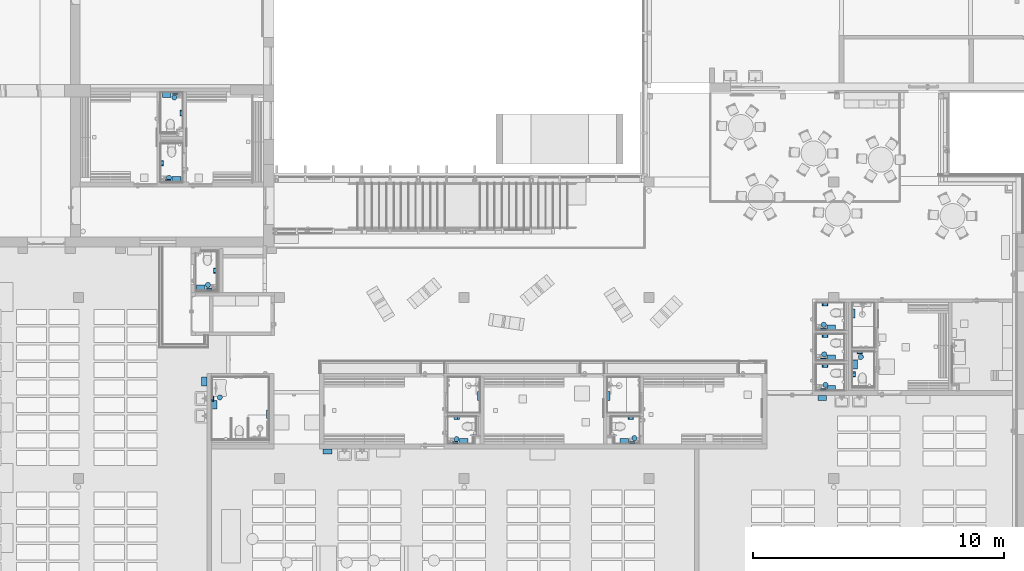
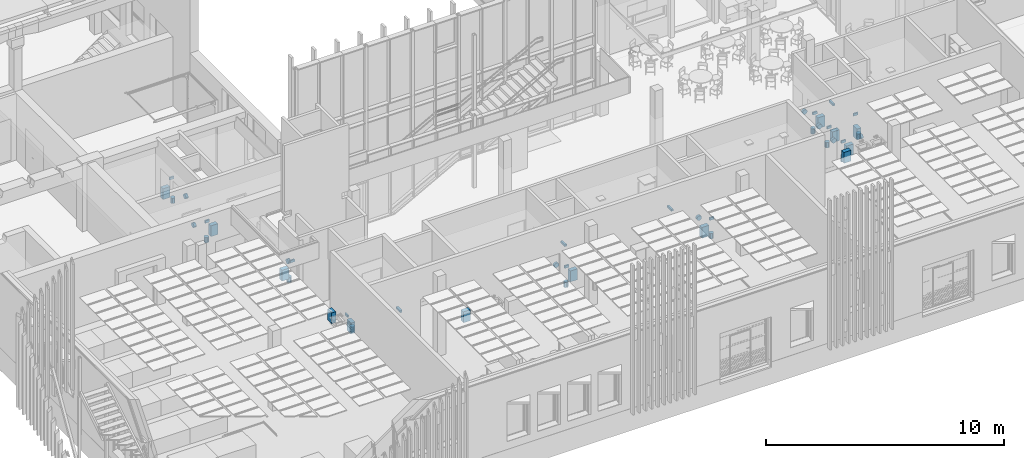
# One storey, part 7 of 301: 46 discrete accessories.
"""IFC2X3 building model written with IfcOpenShell, lengths in millimetres."""

from ifc_helpers import new_model, entity, si_unit, converted_unit, derived_unit, money_unit, direction, frame, origin_with_axes, place, context, subcontext, project, spatial, faceted_brep, source, transform, mapped, type_object, element, save


model = new_model("IFC2X3")

# Units and contexts
model_context = context("Model", 3, precision=0.01, world=origin_with_axes(), true_north=direction((0.0, 1.0)))
body_context = subcontext(model_context, "Body", "Model", "MODEL_VIEW")
ifc_project = project(units=[si_unit("LENGTHUNIT", "METRE", prefix="MILLI"), si_unit("AREAUNIT", "SQUARE_METRE"), si_unit("VOLUMEUNIT", "CUBIC_METRE"), converted_unit("PLANEANGLEUNIT", "DEGREE", entity("IfcPlaneAngleMeasure", 0.0174532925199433), si_unit("PLANEANGLEUNIT", "RADIAN"), dimensions=[0, 0, 0, 0, 0, 0, 0]), money_unit("EUR"), converted_unit("TIMEUNIT", "Year", entity("IfcTimeMeasure", 31557600.0), si_unit("TIMEUNIT", "SECOND"), dimensions=[0, 0, 1, 0, 0, 0, 0]), si_unit("MASSUNIT", "GRAM", prefix="KILO"), si_unit("THERMODYNAMICTEMPERATUREUNIT", "DEGREE_CELSIUS"), si_unit("LUMINOUSINTENSITYUNIT", "LUMEN"), si_unit("ENERGYUNIT", "JOULE", prefix="MEGA"), derived_unit("THERMALCONDUCTANCEUNIT", [(si_unit("POWERUNIT", "WATT"), 1), (si_unit("LENGTHUNIT", "METRE"), -1), (si_unit("THERMODYNAMICTEMPERATUREUNIT", "KELVIN"), -1)]), derived_unit("SPECIFICHEATCAPACITYUNIT", [(si_unit("ENERGYUNIT", "JOULE"), 1), (si_unit("MASSUNIT", "GRAM", prefix="KILO"), -1), (si_unit("THERMODYNAMICTEMPERATUREUNIT", "KELVIN"), -1)]), derived_unit("MASSDENSITYUNIT", [(si_unit("MASSUNIT", "GRAM", prefix="KILO"), 1), (si_unit("VOLUMEUNIT", "CUBIC_METRE"), -1)])], contexts=[model_context])

# Site, building, storey
site_placement = place(None, frame((0.0, 0.0, 8650.0), z_axis=(0.0, 0.0, 1.0), x_axis=(1.0, 0.0, 0.0)))
site = spatial("IfcSite", under=ifc_project, at=site_placement, Name="43301:001:0844", CompositionType="ELEMENT")
building_placement = place(site_placement, origin_with_axes())
building = spatial("IfcBuilding", under=site, at=building_placement, Name="Kuressaare Ametikooli tuulikute mehaanikute õppekorpus", CompositionType="ELEMENT")
storey_placement = place(building_placement, origin_with_axes())
storey = spatial("IfcBuildingStorey", under=building, at=storey_placement, Name="1.korrus", CompositionType="ELEMENT", Elevation=0.0)

# Discrete accessories
discrete_accessory_type_1 = type_object("IfcDiscreteAccessoryType", Name="Cube 27")
shared_shape_1 = source(origin_with_axes(), body_context, "Body", "Brep", [
    faceted_brep([(-344.0, 0.0, 0.0), (-344.0, 202.0, 0.0), (0.0, 202.0, 0.0), (0.0, 0.0, 0.0), (-344.0, 0.0, 557.0), (-344.0, 202.0, 557.0), (0.0, 202.0, 557.0), (0.0, 0.0, 557.0)], [[[0, 1, 2, 3]], [[0, 4, 5, 1]], [[1, 5, 6, 2]], [[2, 6, 7, 3]], [[3, 7, 4, 0]], [[7, 6, 5, 4]]]),
])
for number, where, z_axis, x_axis, name in (
    (1, (125293.2609256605, 19884.46984143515, 340.0), (0.0, 0.0, 1.0), (-1.0, 0.0, 0.0), "EK"),
    (2, (100977.9522847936, 20611.79371949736, 340.0), (0.0, 0.0, 1.0), (0.0, 1.0, 0.0), "EK"),
    (3, (125651.1191303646, 20286.4714138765, 293.0000000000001), (0.0, 0.0, 1.0), (-1.0, 0.0, 0.0), "EK"),
    (4, (125651.1188680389, 21486.47141798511, 293.0000000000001), (0.0, 0.0, 1.0), (-1.0, 0.0, 0.0), "EK"),
    (5, (126857.2610453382, 21291.48390393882, 293.0000000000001), (0.0, 0.0, 1.0), (0.0, 1.0, 0.0), "EK"),
    (6, (125641.1188592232, 22686.47054912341, 293.0000000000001), (0.0, 0.0, 1.0), (-1.0, 0.0, 0.0), "EK"),
    (7, (105608.5123890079, 17764.79956493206, 340.0), (0.0, 0.0, 1.0), (-1.0, 0.0, 0.0), "EK"),
    (8, (101379.9524615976, 19689.79367704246, 232.9999999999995), (0.0, 0.0, 1.0), (0.0, 1.0, 0.0), "EK"),
):
    element("IfcDiscreteAccessory", number, at=place(storey_placement, frame(where, z_axis=z_axis, x_axis=x_axis)), inside=storey, type_object=discrete_accessory_type_1, Name=name, context=body_context, shape_type="MappedRepresentation", body=[
        mapped(shared_shape_1, transform((0.0, 0.0, 0.0))),
    ])
shared_shape_2 = source(origin_with_axes(), body_context, "Body", "Brep", [
    faceted_brep([(344.0, 0.0, 0.0), (0.0, 0.0, 0.0), (0.0, 202.0, 0.0), (344.0, 202.0, 0.0), (344.0, 0.0, 557.0), (0.0, 0.0, 557.0), (0.0, 202.0, 557.0), (344.0, 202.0, 557.0)], [[[0, 1, 2, 3]], [[1, 0, 4, 5]], [[2, 1, 5, 6]], [[3, 2, 6, 7]], [[0, 3, 7, 4]], [[5, 4, 7, 6]]]),
])
for number, where, z_axis, x_axis, name in (
    (9, (117759.4020381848, 18166.83741798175, 293.0000000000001), (0.0, 0.0, 1.0), (-0.9999999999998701, 5.098028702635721e-07, 0.0), "EK"),
    (10, (99947.06167510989, 28586.06892394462, 293.0000000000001), (0.0, 0.0, 1.0), (-0.9999999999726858, 7.391101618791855e-06, 0.0), "EK"),
    (11, (99560.69239023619, 31944.00705247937, 293.0000000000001), (0.0, 0.0, 1.0), (-0.9999999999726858, 7.391101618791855e-06, 0.0), "EK"),
    (12, (100903.8193668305, 24278.06546768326, 293.0000000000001), (0.0, 0.0, 1.0), (-0.9999999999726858, 7.391101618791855e-06, 0.0), "EK"),
    (13, (111371.5452944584, 18166.8365170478, 293.0000000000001), (0.0, 0.0, 1.0), (-0.9999999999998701, 5.098028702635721e-07, 0.0), "EK"),
):
    element("IfcDiscreteAccessory", number, at=place(storey_placement, frame(where, z_axis=z_axis, x_axis=x_axis)), inside=storey, type_object=discrete_accessory_type_1, Name=name, context=body_context, shape_type="MappedRepresentation", body=[
        mapped(shared_shape_2, transform((0.0, 0.0, 0.0))),
    ])
discrete_accessory_type_2 = type_object("IfcDiscreteAccessoryType", Name="Cylinder 27")
shared_shape_3 = source(origin_with_axes(), body_context, "Body", "Brep", [
    faceted_brep([(0.0, -19.96954043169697, -113.2528915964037), (-120.0, -19.96954043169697, -113.2528915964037), (-120.0, 0.0, -115.0), (0.0, 0.0, -115.0), (0.0, -39.33231648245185, -108.0646513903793), (-120.0, -39.33231648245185, -108.0646513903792), (-120.0, -57.49999999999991, -99.59292143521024), (-120.0, -73.92057511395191, -88.09511095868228), (-120.0, -88.09511095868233, -73.92057511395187), (-120.0, -99.59292143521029, -57.49999999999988), (-120.0, -108.0646513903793, -39.33231648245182), (-120.0, -113.2528915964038, -19.96954043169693), (-120.0, -114.9999999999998, 0.0), (-120.0, -113.2528915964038, 19.96954043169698), (-120.0, -108.0646513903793, 39.33231648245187), (-120.0, -99.59292143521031, 57.49999999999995), (-120.0, -88.09511095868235, 73.92057511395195), (-120.0, -73.92057511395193, 88.0951109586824), (-120.0, -57.49999999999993, 99.59292143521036), (-120.0, -39.33231648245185, 108.0646513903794), (-120.0, -19.96954043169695, 113.2528915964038), (-120.0, 0.0, 114.9999999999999), (-120.0, 19.969540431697, 113.2528915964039), (-120.0, 39.33231648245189, 108.0646513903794), (-120.0, 57.49999999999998, 99.59292143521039), (-120.0, 73.92057511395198, 88.09511095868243), (-120.0, 88.09511095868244, 73.92057511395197), (-120.0, 99.5929214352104, 57.49999999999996), (-120.0, 108.0646513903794, 39.33231648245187), (-120.0, 113.2528915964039, 19.96954043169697), (-120.0, 114.9999999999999, 0.0), (-120.0, 113.2528915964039, -19.96954043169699), (-120.0, 108.0646513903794, -39.3323164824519), (-120.0, 99.59292143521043, -57.49999999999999), (-120.0, 88.09511095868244, -73.920575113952), (-120.0, 73.920575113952, -88.09511095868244), (-120.0, 57.49999999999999, -99.59292143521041), (-120.0, 39.33231648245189, -108.0646513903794), (-120.0, 19.96954043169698, -113.2528915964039), (0.0, 19.96954043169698, -113.2528915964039), (0.0, 39.33231648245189, -108.0646513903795), (0.0, 57.49999999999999, -99.59292143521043), (0.0, 73.920575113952, -88.09511095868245), (0.0, 88.09511095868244, -73.92057511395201), (0.0, 99.59292143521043, -57.5), (0.0, 108.0646513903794, -39.33231648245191), (0.0, 113.2528915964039, -19.969540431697), (0.0, 114.9999999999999, 0.0), (0.0, 113.2528915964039, 19.96954043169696), (0.0, 108.0646513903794, 39.33231648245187), (0.0, 99.5929214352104, 57.49999999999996), (0.0, 88.09511095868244, 73.92057511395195), (0.0, 73.92057511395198, 88.09511095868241), (0.0, 57.49999999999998, 99.59292143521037), (0.0, 39.33231648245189, 108.0646513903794), (0.0, 19.969540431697, 113.2528915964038), (0.0, 0.0, 114.9999999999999), (0.0, -19.96954043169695, 113.2528915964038), (0.0, -39.33231648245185, 108.0646513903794), (0.0, -57.49999999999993, 99.59292143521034), (0.0, -73.92057511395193, 88.09511095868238), (0.0, -88.09511095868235, 73.92057511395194), (0.0, -99.59292143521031, 57.49999999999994), (0.0, -108.0646513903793, 39.33231648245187), (0.0, -113.2528915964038, 19.96954043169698), (0.0, -114.9999999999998, 0.0), (0.0, -113.2528915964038, -19.96954043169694), (0.0, -108.0646513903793, -39.33231648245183), (0.0, -99.59292143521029, -57.49999999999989), (0.0, -88.09511095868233, -73.92057511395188), (0.0, -73.92057511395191, -88.0951109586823), (0.0, -57.49999999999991, -99.59292143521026)], [[[0, 1, 2, 3]], [[4, 5, 1, 0]], [[1, 5, 6, 7, 8, 9, 10, 11, 12, 13, 14, 15, 16, 17, 18, 19, 20, 21, 22, 23, 24, 25, 26, 27, 28, 29, 30, 31, 32, 33, 34, 35, 36, 37, 38, 2]], [[3, 2, 38, 39]], [[0, 3, 39, 40, 41, 42, 43, 44, 45, 46, 47, 48, 49, 50, 51, 52, 53, 54, 55, 56, 57, 58, 59, 60, 61, 62, 63, 64, 65, 66, 67, 68, 69, 70, 71, 4]], [[71, 6, 5, 4]], [[70, 7, 6, 71]], [[69, 8, 7, 70]], [[68, 9, 8, 69]], [[67, 10, 9, 68]], [[66, 11, 10, 67]], [[65, 12, 11, 66]], [[64, 13, 12, 65]], [[63, 14, 13, 64]], [[62, 15, 14, 63]], [[61, 16, 15, 62]], [[60, 17, 16, 61]], [[59, 18, 17, 60]], [[58, 19, 18, 59]], [[57, 20, 19, 58]], [[56, 21, 20, 57]], [[55, 22, 21, 56]], [[54, 23, 22, 55]], [[53, 24, 23, 54]], [[52, 25, 24, 53]], [[51, 26, 25, 52]], [[50, 27, 26, 51]], [[49, 28, 27, 50]], [[48, 29, 28, 49]], [[47, 30, 29, 48]], [[46, 31, 30, 47]], [[45, 32, 31, 46]], [[44, 33, 32, 45]], [[43, 34, 33, 44]], [[42, 35, 34, 43]], [[41, 36, 35, 42]], [[40, 37, 36, 41]], [[39, 38, 37, 40]]]),
])
for number, where, z_axis, x_axis in (
    (14, (117839.7169492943, 18924.83649255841, 600.0), (0.0, 0.0, 1.0), (1.339727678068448e-07, -0.999999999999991, 0.0)),
    (15, (126775.2610512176, 20730.79215022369, 600.0), (0.0, 0.0, 1.0), (0.9999999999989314, -1.461895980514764e-06, 0.0)),
    (16, (99139.54813133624, 29119.58392448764, 600.0), (0.0, 0.0, 1.0), (-0.999999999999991, -1.339727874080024e-07, 0.0)),
    (17, (100022.8720177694, 31117.38042114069, 600.0), (0.0, 0.0, 1.0), (0.999999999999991, 1.339727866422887e-07, 0.0)),
):
    element("IfcDiscreteAccessory", number, at=place(storey_placement, frame(where, z_axis=z_axis, x_axis=x_axis)), inside=storey, type_object=discrete_accessory_type_2, Name="WCP", context=body_context, shape_type="MappedRepresentation", body=[
        mapped(shared_shape_3, transform((0.0, 0.0, 0.0))),
    ])
shared_shape_4 = source(origin_with_axes(), body_context, "Body", "Brep", [
    faceted_brep([(0.0, -19.96954043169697, -113.2528915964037), (0.0, 0.0, -115.0), (120.0, 0.0, -115.0), (120.0, -19.96954043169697, -113.2528915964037), (0.0, -39.33231648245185, -108.0646513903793), (0.0, -57.49999999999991, -99.59292143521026), (0.0, -73.92057511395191, -88.0951109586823), (0.0, -88.09511095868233, -73.92057511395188), (0.0, -99.59292143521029, -57.49999999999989), (0.0, -108.0646513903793, -39.33231648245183), (0.0, -113.2528915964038, -19.96954043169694), (0.0, -114.9999999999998, 0.0), (0.0, -113.2528915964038, 19.96954043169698), (0.0, -108.0646513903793, 39.33231648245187), (0.0, -99.59292143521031, 57.49999999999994), (0.0, -88.09511095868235, 73.92057511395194), (0.0, -73.92057511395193, 88.09511095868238), (0.0, -57.49999999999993, 99.59292143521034), (0.0, -39.33231648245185, 108.0646513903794), (0.0, -19.96954043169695, 113.2528915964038), (0.0, 0.0, 114.9999999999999), (0.0, 19.969540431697, 113.2528915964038), (0.0, 39.33231648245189, 108.0646513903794), (0.0, 57.49999999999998, 99.59292143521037), (0.0, 73.92057511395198, 88.09511095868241), (0.0, 88.09511095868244, 73.92057511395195), (0.0, 99.5929214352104, 57.49999999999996), (0.0, 108.0646513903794, 39.33231648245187), (0.0, 113.2528915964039, 19.96954043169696), (0.0, 114.9999999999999, 0.0), (0.0, 113.2528915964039, -19.969540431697), (0.0, 108.0646513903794, -39.33231648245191), (0.0, 99.59292143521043, -57.5), (0.0, 88.09511095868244, -73.92057511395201), (0.0, 73.920575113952, -88.09511095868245), (0.0, 57.49999999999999, -99.59292143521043), (0.0, 39.33231648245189, -108.0646513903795), (0.0, 19.96954043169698, -113.2528915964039), (120.0, 19.96954043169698, -113.2528915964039), (120.0, 39.33231648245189, -108.0646513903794), (120.0, 57.49999999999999, -99.59292143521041), (120.0, 73.920575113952, -88.09511095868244), (120.0, 88.09511095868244, -73.920575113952), (120.0, 99.59292143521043, -57.49999999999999), (120.0, 108.0646513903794, -39.3323164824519), (120.0, 113.2528915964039, -19.96954043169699), (120.0, 114.9999999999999, 0.0), (120.0, 113.2528915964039, 19.96954043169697), (120.0, 108.0646513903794, 39.33231648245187), (120.0, 99.5929214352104, 57.49999999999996), (120.0, 88.09511095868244, 73.92057511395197), (120.0, 73.92057511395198, 88.09511095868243), (120.0, 57.49999999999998, 99.59292143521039), (120.0, 39.33231648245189, 108.0646513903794), (120.0, 19.969540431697, 113.2528915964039), (120.0, 0.0, 114.9999999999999), (120.0, -19.96954043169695, 113.2528915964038), (120.0, -39.33231648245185, 108.0646513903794), (120.0, -57.49999999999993, 99.59292143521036), (120.0, -73.92057511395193, 88.0951109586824), (120.0, -88.09511095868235, 73.92057511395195), (120.0, -99.59292143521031, 57.49999999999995), (120.0, -108.0646513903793, 39.33231648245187), (120.0, -113.2528915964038, 19.96954043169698), (120.0, -114.9999999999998, 0.0), (120.0, -113.2528915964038, -19.96954043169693), (120.0, -108.0646513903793, -39.33231648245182), (120.0, -99.59292143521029, -57.49999999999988), (120.0, -88.09511095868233, -73.92057511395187), (120.0, -73.92057511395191, -88.09511095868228), (120.0, -57.49999999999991, -99.59292143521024), (120.0, -39.33231648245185, -108.0646513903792)], [[[0, 1, 2, 3]], [[0, 4, 5, 6, 7, 8, 9, 10, 11, 12, 13, 14, 15, 16, 17, 18, 19, 20, 21, 22, 23, 24, 25, 26, 27, 28, 29, 30, 31, 32, 33, 34, 35, 36, 37, 1]], [[1, 37, 38, 2]], [[3, 2, 38, 39, 40, 41, 42, 43, 44, 45, 46, 47, 48, 49, 50, 51, 52, 53, 54, 55, 56, 57, 58, 59, 60, 61, 62, 63, 64, 65, 66, 67, 68, 69, 70, 71]], [[4, 0, 3, 71]], [[5, 4, 71, 70]], [[6, 5, 70, 69]], [[7, 6, 69, 68]], [[8, 7, 68, 67]], [[9, 8, 67, 66]], [[10, 9, 66, 65]], [[11, 10, 65, 64]], [[12, 11, 64, 63]], [[13, 12, 63, 62]], [[14, 13, 62, 61]], [[15, 14, 61, 60]], [[16, 15, 60, 59]], [[17, 16, 59, 58]], [[18, 17, 58, 57]], [[19, 18, 57, 56]], [[20, 19, 56, 55]], [[21, 20, 55, 54]], [[22, 21, 54, 53]], [[23, 22, 53, 52]], [[24, 23, 52, 51]], [[25, 24, 51, 50]], [[26, 25, 50, 49]], [[27, 26, 49, 48]], [[28, 27, 48, 47]], [[29, 28, 47, 46]], [[30, 29, 46, 45]], [[31, 30, 45, 44]], [[32, 31, 44, 43]], [[33, 32, 43, 42]], [[34, 33, 42, 41]], [[35, 34, 41, 40]], [[36, 35, 40, 39]], [[37, 36, 39, 38]]]),
])
for number, where, z_axis, x_axis in (
    (18, (125570.8041663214, 22195.60195378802, 600.0), (0.0, 0.0, 1.0), (-1.461895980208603e-06, 0.9999999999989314, 0.0)),
    (19, (125570.804428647, 20995.60194967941, 600.0), (0.0, 0.0, 1.0), (-1.461895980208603e-06, 0.9999999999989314, 0.0)),
    (20, (125570.8037478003, 23435.60209621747, 600.0), (0.0, 0.0, 1.0), (-1.461895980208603e-06, 0.9999999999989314, 0.0)),
    (21, (101373.6548465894, 24843.68250954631, 600.0), (0.0, 0.0, 1.0), (-0.999999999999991, 1.339727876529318e-07, 0.0)),
    (22, (110921.0555100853, 18924.83584452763, 600.0), (0.0, 0.0, 1.0), (1.339727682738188e-07, 0.999999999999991, 0.0)),
):
    element("IfcDiscreteAccessory", number, at=place(storey_placement, frame(where, z_axis=z_axis, x_axis=x_axis)), inside=storey, type_object=discrete_accessory_type_2, Name="WCP", context=body_context, shape_type="MappedRepresentation", body=[
        mapped(shared_shape_4, transform((0.0, 0.0, 0.0))),
    ])
shared_shape_5 = source(origin_with_axes(), body_context, "Body", "Brep", [
    faceted_brep([(-209.0, 0.0, 0.0), (-209.0, 73.0, 0.0), (0.0, 73.0, 0.0), (0.0, 0.0, 0.0), (-209.0, 0.0, 124.0), (-209.0, 73.0, 124.0), (0.0, 73.0, 124.0), (0.0, 0.0, 124.0)], [[[0, 1, 2, 3]], [[0, 4, 5, 1]], [[1, 5, 6, 2]], [[2, 6, 7, 3]], [[3, 7, 4, 0]], [[7, 6, 5, 4]]]),
])
for number, where, z_axis, x_axis, name in (
    (23, (110756.5119871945, 18037.83644387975, 1076.0), (0.0, 0.0, 1.0), (-1.0, 0.0, 0.0), "SD"),
    (24, (117794.7794977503, 18037.8373762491, 1076.0), (0.0, 0.0, 1.0), (-1.0, 0.0, 0.0), "SD"),
    (25, (126845.6766875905, 21624.38544004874, 1076.0), (0.0, 0.0, 1.0), (-1.0, 0.0, 0.0), "SD"),
    (26, (125406.2605651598, 21357.47128298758, 1076.0), (0.0, 0.0, 1.0), (-1.0, 0.0, 0.0), "SD"),
    (27, (125406.2619438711, 22557.47133167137, 1076.0), (0.0, 0.0, 1.0), (-1.0, 0.0, 0.0), "SD"),
    (28, (125406.2608274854, 20157.47127887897, 1076.0), (0.0, 0.0, 1.0), (-1.0, 0.0, 0.0), "SD"),
    (29, (101250.9525189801, 19862.36565353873, 886.7440082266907), (0.0, 0.0, 1.0), (0.0, 1.0, 0.0), "SD"),
    (30, (100975.6959055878, 24149.06957198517, 1076.0), (0.0, 0.0, 1.0), (-1.0, 0.0, 0.0), "SD"),
    (31, (99330.54227209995, 28456.06926564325, 1076.0), (0.0, 0.0, 1.0), (-1.0, 0.0, 0.0), "SD"),
    (32, (99615.93346345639, 31943.55679670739, 1076.0), (0.0, 0.0, 1.0), (-1.0, 0.0, 0.0), "SD"),
):
    element("IfcDiscreteAccessory", number, at=place(storey_placement, frame(where, z_axis=z_axis, x_axis=x_axis)), inside=storey, type_object=discrete_accessory_type_1, Name=name, context=body_context, shape_type="MappedRepresentation", body=[
        mapped(shared_shape_5, transform((0.0, 0.0, 0.0))),
    ])
shared_shape_6 = source(origin_with_axes(), body_context, "Body", "Brep", [
    faceted_brep([(-350.0, 0.0, 0.0), (-350.0, 97.0, 0.0), (0.0, 97.0, 0.0), (0.0, 0.0, 0.0), (-350.0, 0.0, 100.0), (-350.0, 97.0, 100.0), (0.0, 97.0, 100.0), (0.0, 0.0, 100.0)], [[[0, 1, 2, 3]], [[0, 4, 5, 1]], [[1, 5, 6, 2]], [[2, 6, 7, 3]], [[3, 7, 4, 0]], [[7, 6, 5, 4]]]),
])
for number, where, z_axis, x_axis, name in (
    (33, (111748.5123172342, 19683.25509733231, 800.9067184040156), (0.0, 0.0, 1.0), (0.0, -1.0, 0.0), "SR"),
    (34, (116919.5266111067, 19690.13557122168, 800.9067184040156), (0.0, 0.0, 1.0), (0.0, -1.0, 0.0), "SR"),
    (35, (126656.9633101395, 22972.48921468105, 800.9067184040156), (0.0, 0.0, 1.0), (0.0, -1.0, 0.0), "SR"),
    (36, (103348.5116682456, 18960.53652329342, 800.9067184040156), (0.0, 0.0, 1.0), (0.0, -1.0, 0.0), "SR"),
):
    element("IfcDiscreteAccessory", number, at=place(storey_placement, frame(where, z_axis=z_axis, x_axis=x_axis)), inside=storey, type_object=discrete_accessory_type_1, Name=name, context=body_context, shape_type="MappedRepresentation", body=[
        mapped(shared_shape_6, transform((0.0, 0.0, 0.0))),
    ])
shared_shape_7 = source(origin_with_axes(), body_context, "Body", "Brep", [
    faceted_brep([(-100.9427946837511, -17.79893821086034, 0.0), (-100.9427946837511, -17.79893821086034, 275.0), (-102.5, 0.0, 275.0), (-102.5, 0.0, 0.0), (-96.31849363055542, -35.05706469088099, 0.0), (-96.31849363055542, -35.05706469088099, 275.0), (-88.76760388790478, -51.24999999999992, 275.0), (-78.5195554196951, -65.88572999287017, 275.0), (-65.88572999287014, -78.51955541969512, 275.0), (-51.24999999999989, -88.76760388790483, 275.0), (-35.05706469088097, -96.31849363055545, 275.0), (-17.79893821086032, -100.9427946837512, 275.0), (0.0, -102.4999999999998, 275.0), (17.79893821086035, -100.9427946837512, 275.0), (35.05706469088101, -96.31849363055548, 275.0), (51.24999999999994, -88.76760388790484, 275.0), (65.88572999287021, -78.51955541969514, 275.0), (78.51955541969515, -65.8857299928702, 275.0), (88.76760388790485, -51.24999999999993, 275.0), (96.31849363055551, -35.05706469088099, 275.0), (100.9427946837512, -17.79893821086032, 275.0), (102.4999999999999, 0.0, 275.0), (100.9427946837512, 17.79893821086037, 275.0), (96.31849363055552, 35.05706469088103, 275.0), (88.76760388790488, 51.24999999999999, 275.0), (78.51955541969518, 65.88572999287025, 275.0), (65.88572999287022, 78.51955541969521, 275.0), (51.24999999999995, 88.7676038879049, 275.0), (35.05706469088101, 96.31849363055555, 275.0), (17.79893821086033, 100.9427946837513, 275.0), (0.0, 102.5, 275.0), (-17.79893821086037, 100.9427946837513, 275.0), (-35.05706469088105, 96.31849363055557, 275.0), (-51.25, 88.76760388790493, 275.0), (-65.88572999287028, 78.51955541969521, 275.0), (-78.51955541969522, 65.88572999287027, 275.0), (-88.76760388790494, 51.24999999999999, 275.0), (-96.31849363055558, 35.05706469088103, 275.0), (-100.9427946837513, 17.79893821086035, 275.0), (-100.9427946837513, 17.79893821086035, 0.0), (-96.31849363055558, 35.05706469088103, 0.0), (-88.76760388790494, 51.24999999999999, 0.0), (-78.51955541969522, 65.88572999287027, 0.0), (-65.88572999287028, 78.51955541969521, 0.0), (-51.25, 88.76760388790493, 0.0), (-35.05706469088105, 96.31849363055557, 0.0), (-17.79893821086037, 100.9427946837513, 0.0), (0.0, 102.5, 0.0), (17.79893821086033, 100.9427946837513, 0.0), (35.05706469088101, 96.31849363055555, 0.0), (51.24999999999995, 88.7676038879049, 0.0), (65.88572999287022, 78.51955541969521, 0.0), (78.51955541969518, 65.88572999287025, 0.0), (88.76760388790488, 51.24999999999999, 0.0), (96.31849363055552, 35.05706469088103, 0.0), (100.9427946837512, 17.79893821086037, 0.0), (102.4999999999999, 0.0, 0.0), (100.9427946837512, -17.79893821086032, 0.0), (96.31849363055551, -35.05706469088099, 0.0), (88.76760388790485, -51.24999999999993, 0.0), (78.51955541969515, -65.8857299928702, 0.0), (65.88572999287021, -78.51955541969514, 0.0), (51.24999999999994, -88.76760388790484, 0.0), (35.05706469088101, -96.31849363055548, 0.0), (17.79893821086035, -100.9427946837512, 0.0), (0.0, -102.4999999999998, 0.0), (-17.79893821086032, -100.9427946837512, 0.0), (-35.05706469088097, -96.31849363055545, 0.0), (-51.24999999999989, -88.76760388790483, 0.0), (-65.88572999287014, -78.51955541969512, 0.0), (-78.5195554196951, -65.88572999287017, 0.0), (-88.76760388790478, -51.24999999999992, 0.0)], [[[0, 1, 2, 3]], [[4, 5, 1, 0]], [[1, 5, 6, 7, 8, 9, 10, 11, 12, 13, 14, 15, 16, 17, 18, 19, 20, 21, 22, 23, 24, 25, 26, 27, 28, 29, 30, 31, 32, 33, 34, 35, 36, 37, 38, 2]], [[3, 2, 38, 39]], [[0, 3, 39, 40, 41, 42, 43, 44, 45, 46, 47, 48, 49, 50, 51, 52, 53, 54, 55, 56, 57, 58, 59, 60, 61, 62, 63, 64, 65, 66, 67, 68, 69, 70, 71, 4]], [[71, 6, 5, 4]], [[70, 7, 6, 71]], [[69, 8, 7, 70]], [[68, 9, 8, 69]], [[67, 10, 9, 68]], [[66, 11, 10, 67]], [[65, 12, 11, 66]], [[64, 13, 12, 65]], [[63, 14, 13, 64]], [[62, 15, 14, 63]], [[61, 16, 15, 62]], [[60, 17, 16, 61]], [[59, 18, 17, 60]], [[58, 19, 18, 59]], [[57, 20, 19, 58]], [[56, 21, 20, 57]], [[55, 22, 21, 56]], [[54, 23, 22, 55]], [[53, 24, 23, 54]], [[52, 25, 24, 53]], [[51, 26, 25, 52]], [[50, 27, 26, 51]], [[49, 28, 27, 50]], [[48, 29, 28, 49]], [[47, 30, 29, 48]], [[46, 31, 30, 47]], [[45, 32, 31, 46]], [[44, 33, 32, 45]], [[43, 34, 33, 44]], [[42, 35, 34, 43]], [[41, 36, 35, 42]], [[40, 37, 36, 41]], [[39, 38, 37, 40]]]),
])
for number, where, z_axis, x_axis, name in (
    (37, (110914.0885986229, 18147.32900036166, 0.0), (0.0, 0.0, 1.0), (-1.0, 0.0, 0.0), "PR3"),
    (38, (101496.5236355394, 19808.85550608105, 0.0), (0.0, 0.0, 1.0), (-1.0, 0.0, 0.0), "PR3"),
    (39, (117986.4711611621, 18188.54840785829, 0.0), (0.0, 0.0, 1.0), (-1.0, 0.0, 0.0), "PR3"),
    (40, (125590.7963146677, 20303.8383823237, 0.0), (0.0, 0.0, 1.0), (-1.0, 0.0, 0.0), "PR3"),
    (41, (125520.4424276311, 22695.31616121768, 0.0), (0.0, 0.0, 1.0), (-1.0, 0.0, 0.0), "PR3"),
    (42, (101025.047733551, 24281.40153575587, 0.0), (0.0, 0.0, 1.0), (-1.0, 0.0, 0.0), "PR3"),
    (43, (125538.390491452, 21522.97230021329, 0.0), (0.0, 0.0, 1.0), (-1.0, 0.0, 0.0), "PR3"),
    (44, (99473.02804082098, 28540.52217474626, 0.0), (0.0, 0.0, 1.0), (-1.0, 0.0, 0.0), "PR3"),
    (45, (126995.3543526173, 21416.68767789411, 0.0), (0.0, 0.0, 1.0), (-1.0, 0.0, 0.0), "PR3"),
    (46, (99690.08159045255, 31741.07917872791, 0.0), (0.0, 0.0, 1.0), (-1.0, 0.0, 0.0), "PR3"),
):
    element("IfcDiscreteAccessory", number, at=place(storey_placement, frame(where, z_axis=z_axis, x_axis=x_axis)), inside=storey, type_object=discrete_accessory_type_2, Name=name, context=body_context, shape_type="MappedRepresentation", body=[
        mapped(shared_shape_7, transform((0.0, 0.0, 0.0))),
    ])

save(model, "model.ifc")
